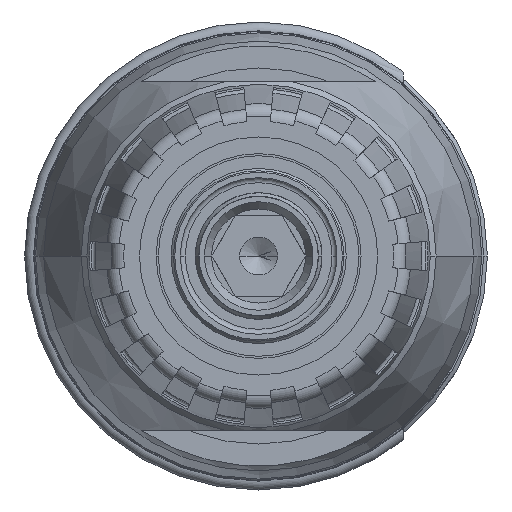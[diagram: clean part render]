
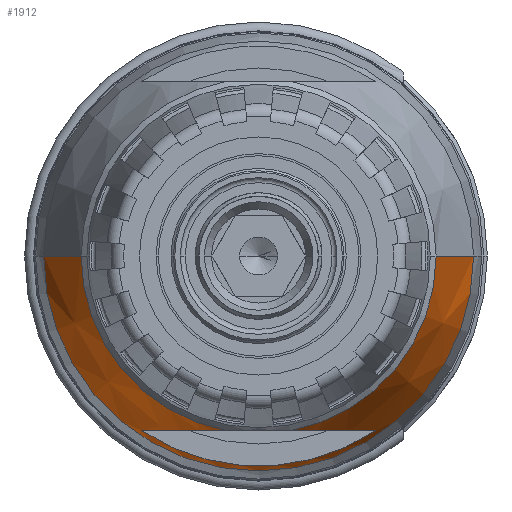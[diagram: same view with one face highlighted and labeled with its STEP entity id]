
A CAD part, left-side view. The second image highlights one B-rep face of the part: STEP entity #1912.
In plain terms, the highlighted conical face has half-angle 18.999 degrees and reference radius 15.653 mm.
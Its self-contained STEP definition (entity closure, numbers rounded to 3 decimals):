
#742=CARTESIAN_POINT('',(-75.34,0.,0.));
#743=DIRECTION('',(-1.,0.,0.));
#744=DIRECTION('',(0.,1.,0.));
#745=AXIS2_PLACEMENT_3D('',#742,#743,#744);
#764=CARTESIAN_POINT('',(-75.34,0.,0.));
#765=DIRECTION('',(-1.,0.,0.));
#766=DIRECTION('',(0.,-0.184,-0.983));
#767=AXIS2_PLACEMENT_3D('',#764,#765,#766);
#772=CARTESIAN_POINT('',(-67.8,0.,0.));
#773=DIRECTION('',(1.,0.,0.));
#774=DIRECTION('',(0.,-0.557,-0.831));
#775=AXIS2_PLACEMENT_3D('',#772,#773,#774);
#780=CARTESIAN_POINT('',(-67.8,-9.331,-13.918));
#781=CARTESIAN_POINT('',(-68.441,-8.935,-13.918));
#782=CARTESIAN_POINT('',(-69.65,-8.153,-13.918));
#783=CARTESIAN_POINT('',(-71.239,-7.01,-13.918));
#784=CARTESIAN_POINT('',(-72.611,-5.887,-13.918));
#785=CARTESIAN_POINT('',(-73.763,-4.779,-13.918));
#786=CARTESIAN_POINT('',(-74.69,-3.683,-13.918));
#787=CARTESIAN_POINT('',(-75.149,-2.966,-13.918));
#788=CARTESIAN_POINT('',(-75.34,-2.609,-13.918));
#793=DIRECTION('',(-0.946,0.326,0.));
#794=VECTOR('',#793,9.173);
#795=CARTESIAN_POINT('',(-66.667,-17.146,0.));
#796=LINE('',#795,#794);
#800=CARTESIAN_POINT('',(-66.667,0.,0.));
#801=DIRECTION('',(-1.,0.,0.));
#802=DIRECTION('',(0.,1.,0.));
#803=AXIS2_PLACEMENT_3D('',#800,#801,#802);
#808=DIRECTION('',(-0.946,-0.326,0.));
#809=VECTOR('',#808,9.173);
#810=CARTESIAN_POINT('',(-66.667,17.146,0.));
#811=LINE('',#810,#809);
#815=CARTESIAN_POINT('',(-75.34,2.609,-13.918));
#816=CARTESIAN_POINT('',(-75.149,2.966,-13.918));
#817=CARTESIAN_POINT('',(-74.69,3.684,-13.918));
#818=CARTESIAN_POINT('',(-73.763,4.78,-13.918));
#819=CARTESIAN_POINT('',(-72.611,5.887,-13.918));
#820=CARTESIAN_POINT('',(-71.239,7.009,-13.918));
#821=CARTESIAN_POINT('',(-69.65,8.152,-13.918));
#822=CARTESIAN_POINT('',(-68.441,8.935,-13.918));
#823=CARTESIAN_POINT('',(-67.8,9.331,-13.918));
#1191=CARTESIAN_POINT('',(-66.667,17.146,0.));
#1193=VERTEX_POINT('',#1191);
#1194=CARTESIAN_POINT('',(-75.34,14.16,0.));
#1195=VERTEX_POINT('',#1194);
#1197=CARTESIAN_POINT('',(-66.667,-17.146,0.));
#1199=VERTEX_POINT('',#1197);
#1200=CARTESIAN_POINT('',(-75.34,-14.16,0.));
#1201=VERTEX_POINT('',#1200);
#1272=CARTESIAN_POINT('',(-67.8,-9.331,-13.918));
#1273=CARTESIAN_POINT('',(-67.8,9.331,-13.918));
#1274=VERTEX_POINT('',#1272);
#1275=VERTEX_POINT('',#1273);
#1276=VERTEX_POINT('',#788);
#1277=VERTEX_POINT('',#815);
#1893=CARTESIAN_POINT('',(-71.003,0.,0.));
#1894=DIRECTION('',(1.,0.,0.));
#1895=DIRECTION('',(0.,-1.,0.));
#1896=AXIS2_PLACEMENT_3D('',#1893,#1894,#1895);
#1897=CONICAL_SURFACE('',#1896,15.653,18.999);
#1899=ORIENTED_EDGE('',*,*,#1898,.F.);
#1900=ORIENTED_EDGE('',*,*,#1883,.T.);
#1901=ORIENTED_EDGE('',*,*,#1873,.T.);
#1903=ORIENTED_EDGE('',*,*,#1902,.F.);
#1905=ORIENTED_EDGE('',*,*,#1904,.F.);
#1907=ORIENTED_EDGE('',*,*,#1906,.T.);
#1908=ORIENTED_EDGE('',*,*,#1866,.T.);
#1909=ORIENTED_EDGE('',*,*,#1887,.T.);
#1910=EDGE_LOOP('',(#1899,#1900,#1901,#1903,#1905,#1907,#1908,#1909));
#1911=FACE_OUTER_BOUND('',#1910,.F.);
#1912=ADVANCED_FACE('',(#1911),#1897,.T.);
#746=CIRCLE('',#745,14.16);
#768=CIRCLE('',#767,14.16);
#776=CIRCLE('',#775,16.756);
#789=B_SPLINE_CURVE_WITH_KNOTS('',3,(#780,#781,#782,#783,#784,#785,#786,#787,
#788),.UNSPECIFIED.,.F.,.F.,(4,1,1,1,1,1,4),(0.,0.167,
0.333,0.5,0.667,0.833,1.),
.UNSPECIFIED.);
#804=CIRCLE('',#803,17.146);
#824=B_SPLINE_CURVE_WITH_KNOTS('',3,(#815,#816,#817,#818,#819,#820,#821,#822,
#823),.UNSPECIFIED.,.F.,.F.,(4,1,1,1,1,1,4),(0.,0.167,
0.333,0.5,0.667,0.833,1.),
.UNSPECIFIED.);
#1866=EDGE_CURVE('',#1195,#1277,#746,.T.);
#1873=EDGE_CURVE('',#1276,#1201,#768,.T.);
#1883=EDGE_CURVE('',#1274,#1276,#789,.T.);
#1887=EDGE_CURVE('',#1277,#1275,#824,.T.);
#1898=EDGE_CURVE('',#1274,#1275,#776,.T.);
#1902=EDGE_CURVE('',#1199,#1201,#796,.T.);
#1904=EDGE_CURVE('',#1193,#1199,#804,.T.);
#1906=EDGE_CURVE('',#1193,#1195,#811,.T.);
